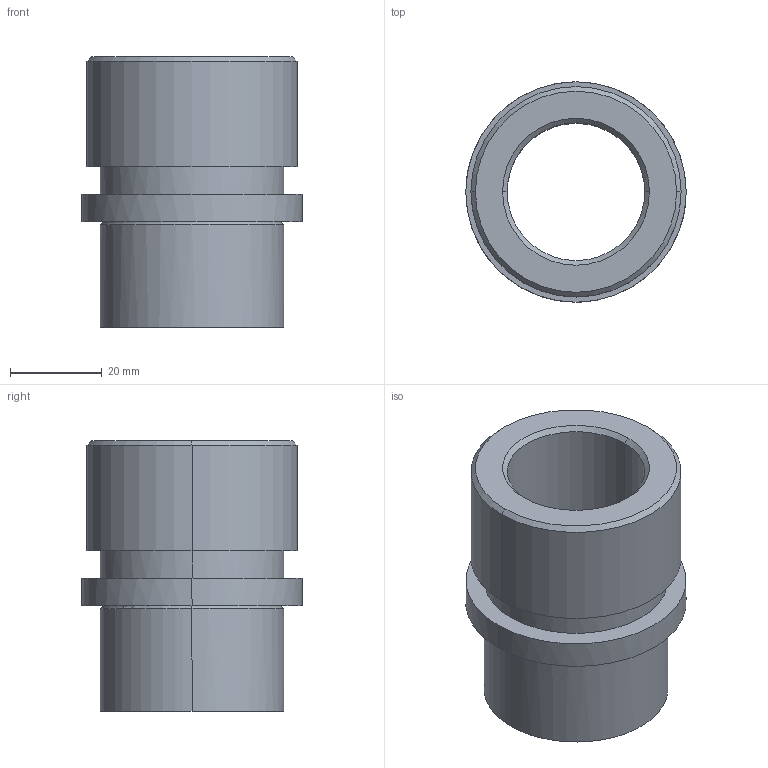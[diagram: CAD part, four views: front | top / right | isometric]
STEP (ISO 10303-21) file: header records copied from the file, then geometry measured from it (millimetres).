
FILE_DESCRIPTION(('CATIA V5 STEP Exchange'),'2;1');
FILE_NAME('C:\Users\Utente\Desktop\IO LAVORO\3D X SITO CF\X SITO\735\735-24.stp','2021-01-16T19:27:37+00:00',('none'),('none'),'CATIA Version 5 Release 20 GA (IN-10)','CATIA V5 STEP AP203','none');
FILE_SCHEMA(('CONFIG_CONTROL_DESIGN'));
Length unit declared in the file: millimetre
Products named in the file (1): 735-24
Assembly tree (1 placements, depth 2):
  735-24
    #58
Bounding box: 48 x 48 x 59 mm (x, y, z)
Volume: 44861.4 mm3; surface area: 16557.7 mm2
Topology: 1 solids, 1 shells, 25 faces, 50 edges, 30 vertices
Faces by surface type: cylinder 10, cone 6, plane 5, torus 4
Entity records: 851 total; most frequent: CARTESIAN_POINT 282, ORIENTED_EDGE 100, DIRECTION 96, AXIS2_PLACEMENT_3D 53, EDGE_CURVE 50, EDGE_LOOP 30, VERTEX_POINT 30, CIRCLE 26
